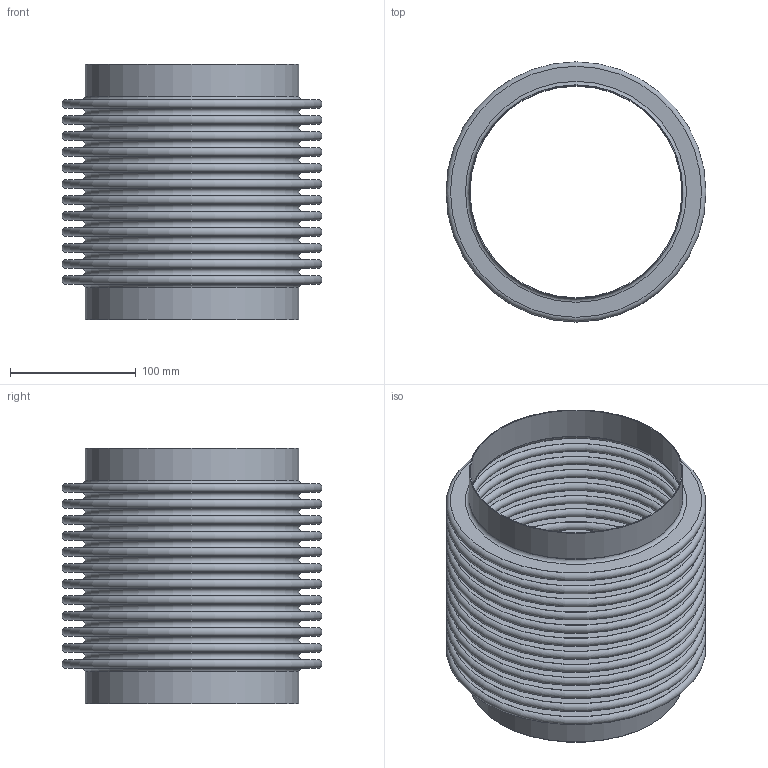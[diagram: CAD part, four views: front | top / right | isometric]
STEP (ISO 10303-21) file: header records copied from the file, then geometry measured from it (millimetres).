
FILE_DESCRIPTION(/* description */ (''),/* implementation_level */ '2;1');
FILE_NAME(/* name */ 'US-6-12-85L.stp',/* time_stamp */ '2026-07-21T11:11:27-05:00',/* author */ ('linda'),/* organization */ (''),/* preprocessor_version */ 'ST-DEVELOPER v20.1',/* originating_system */ 'Autodesk Inventor 2026',/* authorisation */ '');
FILE_SCHEMA (('AUTOMOTIVE_DESIGN { 1 0 10303 214 3 1 1 }'));
Length unit declared in the file: inch
Products named in the file (1): Part3
Bounding box: 206.38 x 206.38 x 203.2 mm (x, y, z)
Volume: 256389.7 mm3; surface area: 675366.8 mm2
Topology: 3 solids, 3 shells, 108 faces, 162 edges, 109 vertices
Faces by surface type: plane 54, torus 50, cylinder 4
Full cylindrical faces by diameter (mm): 168.275 x2, 169.799 x2
Entity records: 2667 total; most frequent: DIRECTION 538, CARTESIAN_POINT 380, ORIENTED_EDGE 324, AXIS2_PLACEMENT_3D 267, EDGE_LOOP 162, EDGE_CURVE 162, CIRCLE 158, STYLED_ITEM 111
